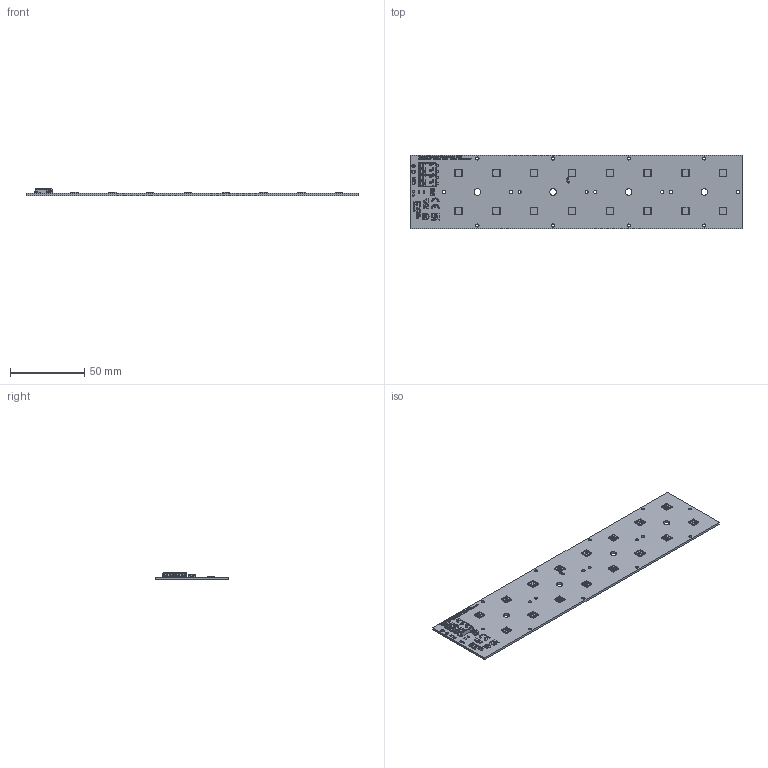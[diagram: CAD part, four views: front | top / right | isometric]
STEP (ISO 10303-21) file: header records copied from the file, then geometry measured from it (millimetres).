
FILE_DESCRIPTION(('Creo Elements/Direct Modeling STEP Export'),'2;1');
FILE_NAME('3D-Model_WU-M-630-SA-16.stp','2023-12-22T11:04:03',(''),(''),'PTC Creo Elements/Direct Modeling STEP processor for AP214 (Solid Model)','PTC Creo Elements/Direct Modeling 19.0E 27-Jun-2016 (C) Parametric Technology GmbH','');
FILE_SCHEMA(('AUTOMOTIVE_DESIGN { 1 0 10303 214 1 1 1 1 }'));
Length unit declared in the file: millimetre
Products named in the file (681): quilt.1; TEXT_ADDRESS_LOGO_99.PRT; TEXT_ADDRESS_LOGO_98.PRT; TEXT_ADDRESS_LOGO_97.PRT; TEXT_ADDRESS_LOGO_96.PRT; TEXT_ADDRESS_LOGO_95.PRT; TEXT_ADDRESS_LOGO_94.PRT; TEXT_ADDRESS_LOGO_93.PRT; TEXT_ADDRESS_LOGO_92.PRT; TEXT_ADDRESS_LOGO_91.PRT; TEXT_ADDRESS_LOGO_90.PRT; TEXT_ADDRESS_LOGO_9.PRT; TEXT_ADDRESS_LOGO_89.PRT; TEXT_ADDRESS_LOGO_88.PRT; TEXT_ADDRESS_LOGO_87.PRT; TEXT_ADDRESS_LOGO_86.PRT; TEXT_ADDRESS_LOGO_85.PRT; TEXT_ADDRESS_LOGO_84.PRT; TEXT_ADDRESS_LOGO_83.PRT; TEXT_ADDRESS_LOGO_82.PRT; TEXT_ADDRESS_LOGO_81.PRT; TEXT_ADDRESS_LOGO_80.PRT; TEXT_ADDRESS_LOGO_8.PRT; TEXT_ADDRESS_LOGO_79.PRT; TEXT_ADDRESS_LOGO_78.PRT; TEXT_ADDRESS_LOGO_77.PRT; TEXT_ADDRESS_LOGO_76_1.PRT; TEXT_ADDRESS_LOGO_76.PRT; TEXT_ADDRESS_LOGO_75.PRT; TEXT_ADDRESS_LOGO_74.PRT; TEXT_ADDRESS_LOGO_73.PRT; TEXT_ADDRESS_LOGO_72.PRT; TEXT_ADDRESS_LOGO_71.PRT; TEXT_ADDRESS_LOGO_70.PRT; TEXT_ADDRESS_LOGO_7.PRT; TEXT_ADDRESS_LOGO_69.PRT; TEXT_ADDRESS_LOGO_68.PRT; TEXT_ADDRESS_LOGO_67.PRT; TEXT_ADDRESS_LOGO_66.PRT; TEXT_ADDRESS_LOGO_65.PRT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
Assembly tree (341 placements, depth 2):
  quilt.1
    quilt.1
  quilt.1
    quilt.1
  quilt.1
    quilt.1
  quilt.1
    quilt.1
  quilt.1
    quilt.1
Bounding box: 223 x 49.5 x 4.95 mm (x, y, z)
Volume: 16588.3 mm3; surface area: 26397.2 mm2
Topology: 333 solids, 341 shells, 9231 faces, 25712 edges, 16978 vertices
Faces by surface type: plane 6497, cylinder 2181, cone 216, bspline 198, extrusion 55, sphere 52, torus 32
Entity records: 398594 total; most frequent: CARTESIAN_POINT 65246, ORIENTED_EDGE 51034, DIRECTION 48654, EDGE_CURVE 25559, VECTOR 20120, LINE 20065, VERTEX_POINT 16930, AXIS2_PLACEMENT_3D 14267
